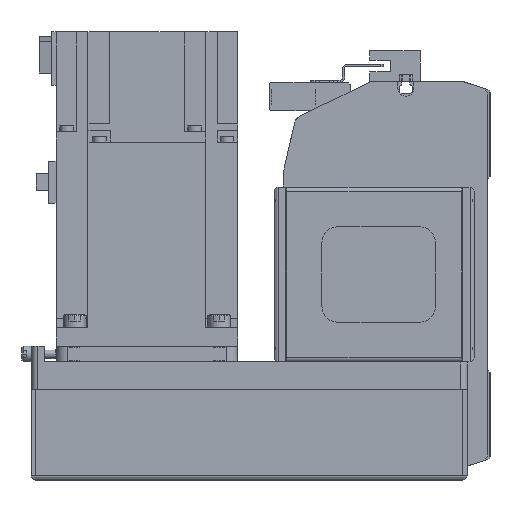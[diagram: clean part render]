
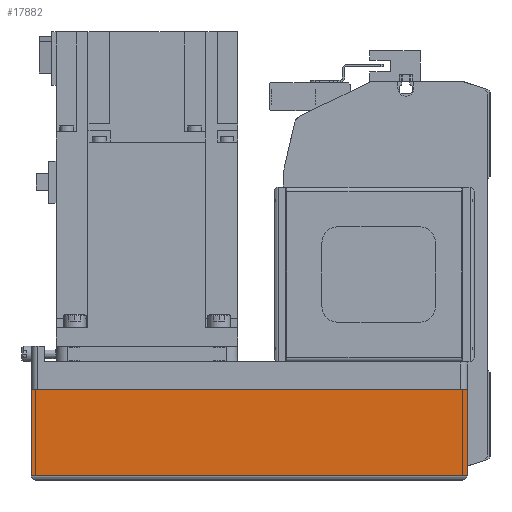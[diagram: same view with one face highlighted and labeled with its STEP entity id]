
A CAD part, left-side view. The second image highlights one B-rep face of the part: STEP entity #17882.
In plain terms, the highlighted planar face has unit normal (-1, 0, 0) as drawn and (0, -1, 0) by its records, which use the part's own axes.
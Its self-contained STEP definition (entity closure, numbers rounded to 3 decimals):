
#2808=ORIENTED_EDGE('',*,*,#7225,.F.);
#2809=ORIENTED_EDGE('',*,*,#7209,.F.);
#2810=ORIENTED_EDGE('',*,*,#7202,.T.);
#2811=ORIENTED_EDGE('',*,*,#7272,.T.);
#7202=EDGE_CURVE('',#9585,#9584,#11416,.T.);
#7209=EDGE_CURVE('',#9585,#9591,#11423,.T.);
#7225=EDGE_CURVE('',#9591,#9605,#11439,.T.);
#7272=EDGE_CURVE('',#9584,#9605,#11460,.T.);
#9584=VERTEX_POINT('',#27465);
#9585=VERTEX_POINT('',#27467);
#9591=VERTEX_POINT('',#27482);
#9605=VERTEX_POINT('',#27515);
#11416=LINE('',#27466,#13062);
#11423=LINE('',#27481,#13069);
#11439=LINE('',#27514,#13085);
#11460=LINE('',#27595,#13106);
#13062=VECTOR('',#21976,1000.);
#13069=VECTOR('',#21987,1000.);
#13085=VECTOR('',#22009,1000.);
#13106=VECTOR('',#22118,1000.);
#14570=EDGE_LOOP('',(#2808,#2809,#2810,#2811));
#15942=FACE_BOUND('',#14570,.T.);
#17145=PLANE('',#19177);
#17882=ADVANCED_FACE('',(#15942),#17145,.T.);
#19177=AXIS2_PLACEMENT_3D('',#27596,#22119,#22120);
#21976=DIRECTION('',(0.,0.,-1.));
#21987=DIRECTION('',(1.,0.,0.));
#22009=DIRECTION('',(0.,0.,-1.));
#22118=DIRECTION('',(1.,0.,0.));
#22119=DIRECTION('',(0.,-1.,0.));
#22120=DIRECTION('',(0.,0.,-1.));
#27465=CARTESIAN_POINT('',(-192.,-40.,-50.));
#27466=CARTESIAN_POINT('',(-192.,-40.,-12.1));
#27467=CARTESIAN_POINT('',(-192.,-40.,-12.1));
#27481=CARTESIAN_POINT('',(-192.,-40.,-12.1));
#27482=CARTESIAN_POINT('',(0.,-40.,-12.1));
#27514=CARTESIAN_POINT('',(0.,-40.,-12.1));
#27515=CARTESIAN_POINT('',(0.,-40.,-50.));
#27595=CARTESIAN_POINT('',(-192.,-40.,-50.));
#27596=CARTESIAN_POINT('',(-192.,-40.,-12.1));
